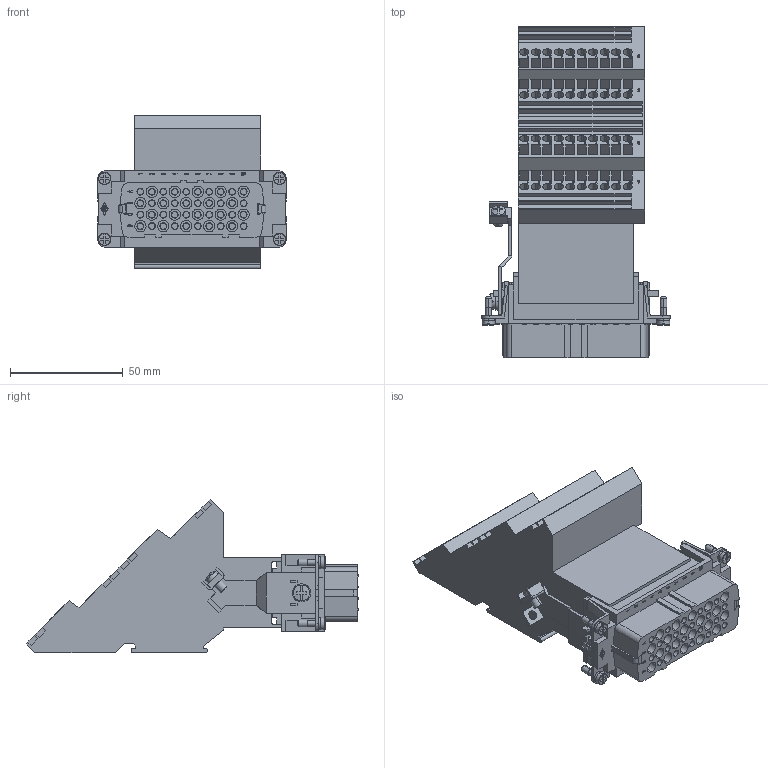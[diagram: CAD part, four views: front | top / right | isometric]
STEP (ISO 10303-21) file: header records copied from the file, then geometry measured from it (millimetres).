
FILE_DESCRIPTION (( 'STEP AP203' ), '1' );
FILE_NAME ('CTSF-40L.STEP', '2016-05-13T14:33:24', ( 'Mencom User' ), ( 'Hewlett-Packard Company' ), 'SwSTEP 2.0', 'SolidWorks 2015', '' );
FILE_SCHEMA (( 'CONFIG_CONTROL_DESIGN' ));
Products named in the file (1): CTSF-40L
Bounding box: 83.5 x 147.01 x 68 mm (x, y, z)
Surface area: 70031.1 mm2 (no closed solid volume)
Topology: 0 solids, 5 shells, 2233 faces, 5683 edges, 3760 vertices
Faces by surface type: plane 1232, bspline 530, cylinder 456, cone 8, torus 5, sphere 2
Entity records: 70616 total; most frequent: CARTESIAN_POINT 19362, ORIENTED_EDGE 11336, DIRECTION 8887, EDGE_CURVE 5683, VERTEX_POINT 3760, LINE 3567, VECTOR 3567, AXIS2_PLACEMENT_3D 2660
